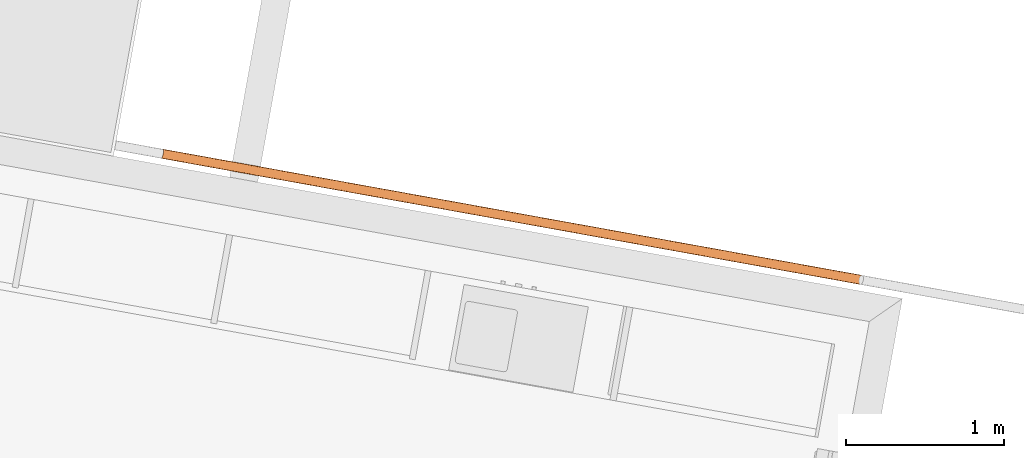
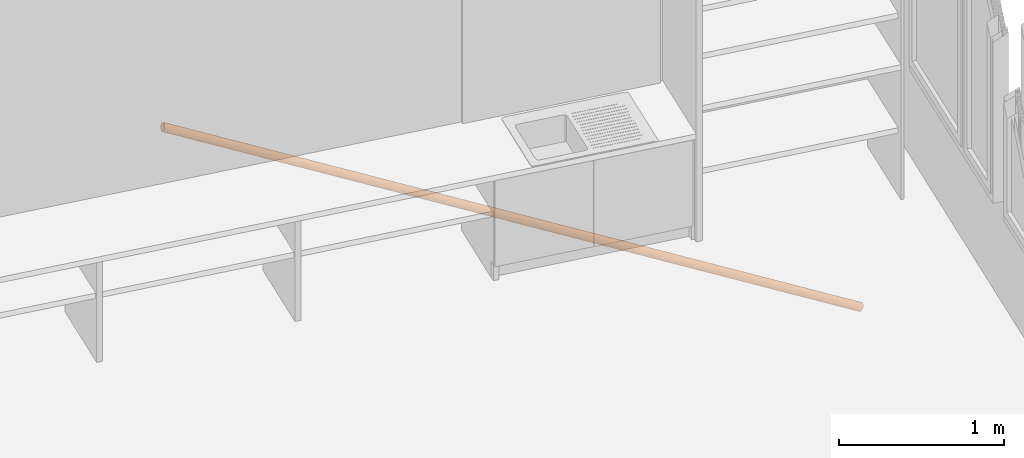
# One storey, part 40 of 52: 1 proxy, 1 element without a shape of its own.
"""IFC2X3 building model written with IfcOpenShell, lengths in metres."""

from ifc_helpers import new_model, entity, si_unit, converted_unit, derived_unit, money_unit, direction, frame, origin_with_axes, place, context, subcontext, project, spatial, faceted_brep, material, type_object, element, aggregate, save


model = new_model("IFC2X3")

# Units and contexts
model_context = context("Model", 3, precision=1e-05, world=origin_with_axes(), true_north=direction((0.0, 1.0)))
body_context = subcontext(model_context, "Body", "Model", "MODEL_VIEW")
ifc_project = project(units=[si_unit("LENGTHUNIT", "METRE"), si_unit("AREAUNIT", "SQUARE_METRE"), si_unit("VOLUMEUNIT", "CUBIC_METRE"), converted_unit("PLANEANGLEUNIT", "DEGREE", entity("IfcPlaneAngleMeasure", 0.0174532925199), si_unit("PLANEANGLEUNIT", "RADIAN"), dimensions=[0, 0, 0, 0, 0, 0, 0]), money_unit("CHF"), converted_unit("TIMEUNIT", "Year", entity("IfcTimeMeasure", 31556926.0), si_unit("TIMEUNIT", "SECOND"), dimensions=[0, 0, 1, 0, 0, 0, 0]), si_unit("MASSUNIT", "GRAM", prefix="KILO"), si_unit("THERMODYNAMICTEMPERATUREUNIT", "DEGREE_CELSIUS"), si_unit("LUMINOUSINTENSITYUNIT", "LUMEN"), si_unit("ENERGYUNIT", "JOULE", prefix="MEGA"), derived_unit("THERMALCONDUCTANCEUNIT", [(si_unit("POWERUNIT", "WATT"), 1), (si_unit("LENGTHUNIT", "METRE"), -1), (si_unit("THERMODYNAMICTEMPERATUREUNIT", "KELVIN"), -1)]), derived_unit("SPECIFICHEATCAPACITYUNIT", [(si_unit("ENERGYUNIT", "JOULE"), 1), (si_unit("MASSUNIT", "GRAM", prefix="KILO"), -1), (si_unit("THERMODYNAMICTEMPERATUREUNIT", "KELVIN"), -1)]), derived_unit("MASSDENSITYUNIT", [(si_unit("MASSUNIT", "GRAM", prefix="KILO"), 1), (si_unit("VOLUMEUNIT", "CUBIC_METRE"), -1)])], contexts=[model_context])

# Site, building, storey
site_placement = place(None, frame((0.0, 0.0, 0.0), z_axis=(0.0, 0.0, 1.0), x_axis=(-0.177771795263, -0.984071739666, 0.0)))
site = spatial("IfcSite", under=ifc_project, at=site_placement, Name="Site", CompositionType="ELEMENT")
building_placement = place(site_placement, origin_with_axes())
building = spatial("IfcBuilding", under=site, at=building_placement, Name="Bâtiment", CompositionType="ELEMENT")
storey_placement = place(building_placement, frame((0.0, 0.0, 3.2), z_axis=(0.0, 0.0, 1.0), x_axis=(1.0, 0.0, 0.0)))
storey = spatial("IfcBuildingStorey", under=building, at=storey_placement, Name="R+1", CompositionType="ELEMENT", Elevation=3.2)

# Proxies
building_element_proxy_type_1 = type_object("IfcBuildingElementProxyType", Name="Type de garde-corps", PredefinedType="NOTDEFINED")
proxy_1_placement = place(storey_placement, frame((0.0, 0.0, -3.2), z_axis=(0.0, 0.0, 1.0), x_axis=(1.0, 0.0, 0.0)))
proxy_1 = element("IfcBuildingElementProxy", 1, at=proxy_1_placement, inside=storey, type_object=building_element_proxy_type_1, Name="garde-corps esc")
ifc_material = material(Name="Bois - Massif 01")
building_element_proxy_type_2 = type_object("IfcBuildingElementProxyType", Name="IfcBuildingElementProxy", PredefinedType="NOTDEFINED")
proxy_2_placement = place(proxy_1_placement, frame((146.119596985, -150.645378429, 1.65755670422), z_axis=(0.0, 0.0, 1.0), x_axis=(1.0, 0.0, 0.0)))
proxy_2 = element("IfcBuildingElementProxy", 2, at=proxy_2_placement, type_object=building_element_proxy_type_2, material=ifc_material, Name="MOBILIER-001", context=body_context, shape_type="Brep", body=[
    faceted_brep([(-0.030500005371, 2.25002500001, 0.0424264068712), (-0.0300449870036, 2.24757335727, 0.0378298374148), (-0.0290440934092, -2.25132127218, 2.43723385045), (-0.0300434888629, 2.25247636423, 0.0470229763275), (-0.0286893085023, 2.25485296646, 0.0514798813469), (-0.0264786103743, 2.25708259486, 0.0556617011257), (-0.0234785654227, 2.25909750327, 0.0594413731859), (-0.0197803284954, 2.26083646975, 0.0627040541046), (-0.0154962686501, 2.26224665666, 0.0653506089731), (-0.0107565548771, 2.26328521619, 0.0673006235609), (-0.0057052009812, 2.26392059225, 0.0684948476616), (-0.00049568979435, 2.26413347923, 0.0688969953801), (0.00471369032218, 2.2639174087, 0.0684948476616), (0.00976465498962, 2.26327894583, 0.0673006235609), (0.0145037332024, 2.26223748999, 0.0653506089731), (0.0187869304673, 2.26082468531, 0.0627040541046), (0.0224841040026, 2.25908345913, 0.0594413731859), (0.0254829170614, 2.25706671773, 0.0556617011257), (0.0276922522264, 2.25483573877, 0.0514798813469), (0.0290449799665, 2.25245830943, 0.0470229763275), (0.029499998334, 2.25000666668, 0.0424264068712), (0.0290434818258, 2.24755530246, 0.0378298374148), (0.0276893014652, 2.24517870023, 0.0333729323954), (0.0254786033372, 2.24294907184, 0.0291911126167), (0.0224785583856, 2.24093416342, 0.0254114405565), (0.0187803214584, 2.23919519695, 0.0221487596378), (0.014496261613, 2.23778501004, 0.0195022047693), (0.00975654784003, 2.2367464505, 0.0175521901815), (0.00470519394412, 2.23611107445, 0.0163579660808), (-0.00050431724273, 2.23589818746, 0.0159558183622), (-0.00571369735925, 2.236114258, 0.0163579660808), (-0.0107646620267, 2.23675272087, 0.0175521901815), (-0.0155037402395, 2.2377941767, 0.0195022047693), (-0.0197869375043, 2.23920698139, 0.0221487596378), (-0.0234841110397, 2.24094820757, 0.0254114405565), (-0.0264829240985, 2.24296494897, 0.0291911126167), (-0.0286922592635, 2.24519592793, 0.0333729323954), (-0.0276905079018, -2.25258392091, 2.43218269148), (-0.0294999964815, -2.25001895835, 2.44244329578), (-0.0290443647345, -2.24871654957, 2.4476527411), (-0.0276910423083, -2.24745361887, 2.45270390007), (-0.02548114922, -2.24626853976, 2.45744329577), (-0.0224818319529, -2.24519732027, 2.46172692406), (-0.0187842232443, -2.24427250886, 2.46542462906), (-0.0145006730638, -2.24352220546, 2.46842405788), (-0.00976133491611, -2.24296920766, 2.47063407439), (-0.00471021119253, -2.24263031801, 2.47198752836), (0.00049922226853, -2.24251583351, 2.47244329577), (0.00570867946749, -2.24262923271, 2.47198752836), (0.0107598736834, -2.24296707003, 2.47063407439), (0.0154993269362, -2.24351908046, 2.46842405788), (0.0197830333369, -2.24426849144, 2.46542462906), (0.0234808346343, -2.24519253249, 2.46172692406), (0.0264803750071, -2.2462631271, 2.45744329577), (0.0286905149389, -2.24744774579, 2.45270390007), (0.0300441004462, -2.24871039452, 2.4476527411), (0.0305000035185, -2.25001270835, 2.44244329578), (0.0300443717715, -2.25131511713, 2.43723385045), (0.0286910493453, -2.25257804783, 2.43218269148), (0.026481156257, -2.25376312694, 2.42744329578), (0.0234818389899, -2.25483434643, 2.42315966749), (0.0197842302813, -2.25575915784, 2.41946196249), (0.0155006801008, -2.25650946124, 2.41646253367), (0.0107613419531, -2.25706245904, 2.41425251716), (0.00571021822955, -2.25740134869, 2.4128990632), (0.00050078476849, -2.25751583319, 2.41244329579), (-0.00470867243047, -2.25740243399, 2.4128990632), (-0.00975986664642, -2.25706459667, 2.41425251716), (-0.0144993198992, -2.25651258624, 2.41646253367), (-0.0187830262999, -2.25576317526, 2.41946196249), (-0.0224808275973, -2.25483913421, 2.42315966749), (-0.02548036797, -2.2537685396, 2.42744329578)], [[[0, 1, 2]], [[0, 3, 4, 5, 6, 7, 8, 9, 10, 11, 12, 13, 14, 15, 16, 17, 18, 19, 20, 21, 22, 23, 24, 25, 26, 27, 28, 29, 30, 31, 32, 33, 34, 35, 36, 1]], [[1, 37, 2]], [[0, 2, 38]], [[3, 0, 38]], [[4, 3, 39]], [[5, 4, 40]], [[6, 5, 41]], [[7, 6, 42]], [[8, 7, 43]], [[9, 8, 44]], [[10, 9, 45]], [[11, 10, 46]], [[12, 11, 47]], [[13, 12, 48]], [[14, 13, 49]], [[15, 14, 50]], [[16, 15, 51]], [[17, 16, 52]], [[18, 17, 53]], [[19, 18, 54]], [[20, 19, 55]], [[21, 20, 56]], [[22, 21, 57]], [[23, 22, 58]], [[24, 23, 59]], [[25, 24, 60]], [[26, 25, 61]], [[27, 26, 62]], [[28, 27, 63]], [[29, 28, 64]], [[30, 29, 65]], [[31, 30, 66]], [[32, 31, 67]], [[33, 32, 68]], [[34, 33, 69]], [[35, 34, 70]], [[36, 35, 71]], [[1, 36, 37]], [[38, 2, 37, 71, 70, 69, 68, 67, 66, 65, 64, 63, 62, 61, 60, 59, 58, 57, 56, 55, 54, 53, 52, 51, 50, 49, 48, 47, 46, 45, 44, 43, 42, 41, 40, 39]], [[3, 38, 39]], [[4, 39, 40]], [[5, 40, 41]], [[6, 41, 42]], [[7, 42, 43]], [[8, 43, 44]], [[9, 44, 45]], [[10, 45, 46]], [[11, 46, 47]], [[12, 47, 48]], [[13, 48, 49]], [[14, 49, 50]], [[15, 50, 51]], [[16, 51, 52]], [[17, 52, 53]], [[18, 53, 54]], [[19, 54, 55]], [[20, 55, 56]], [[21, 56, 57]], [[22, 57, 58]], [[23, 58, 59]], [[24, 59, 60]], [[25, 60, 61]], [[26, 61, 62]], [[27, 62, 63]], [[28, 63, 64]], [[29, 64, 65]], [[30, 65, 66]], [[31, 66, 67]], [[32, 67, 68]], [[33, 68, 69]], [[34, 69, 70]], [[35, 70, 71]], [[36, 71, 37]]]),
])
aggregate(proxy_1, [proxy_2])

save(model, "model.ifc")
